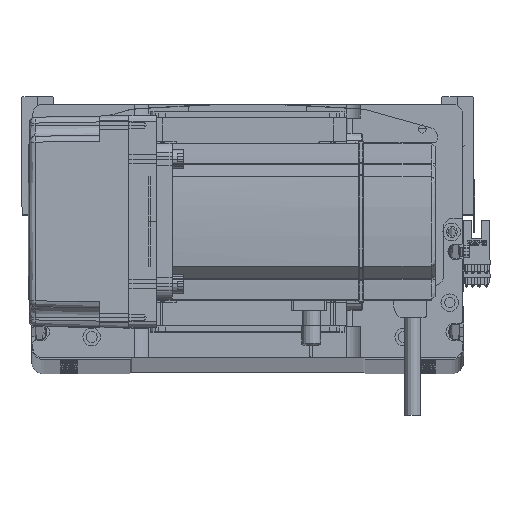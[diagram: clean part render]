
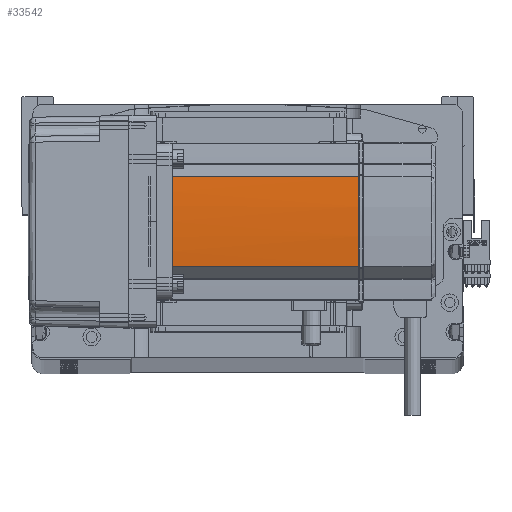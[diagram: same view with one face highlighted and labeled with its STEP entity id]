
A CAD part, top view. The second image highlights one B-rep face of the part: STEP entity #33542.
In plain terms, the highlighted cylindrical face has radius 270 mm (diameter 540 mm), a partial arc.
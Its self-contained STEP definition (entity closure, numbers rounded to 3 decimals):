
#1950 = VERTEX_POINT ( 'NONE', #11320 ) ;
#2886 = AXIS2_PLACEMENT_3D ( 'NONE', #28409, #13904, #57689 ) ;
#4317 = CIRCLE ( 'NONE', #2886, 270. ) ;
#4852 = DIRECTION ( 'NONE',  ( 0., 0., -1. ) ) ;
#4976 = CARTESIAN_POINT ( 'NONE',  ( 39.042, 22.724, 134. ) ) ;
#8057 = CARTESIAN_POINT ( 'NONE',  ( 40., -0.127, 134. ) ) ;
#10020 = ORIENTED_EDGE ( 'NONE', *, *, #25252, .F. ) ;
#11320 = CARTESIAN_POINT ( 'NONE',  ( 39.042, -22.724, 134. ) ) ;
#11766 = DIRECTION ( 'NONE',  ( 0., 0., -1. ) ) ;
#13904 = DIRECTION ( 'NONE',  ( 0., 0., -1. ) ) ;
#14029 = DIRECTION ( 'NONE',  ( 0., 0., 1. ) ) ;
#15095 = EDGE_CURVE ( 'NONE', #1950, #21059, #60653, .T. ) ;
#17395 = AXIS2_PLACEMENT_3D ( 'NONE', #29959, #29756, #39551 ) ;
#18592 = ORIENTED_EDGE ( 'NONE', *, *, #59586, .T. ) ;
#19333 = CARTESIAN_POINT ( 'NONE',  ( 39.042, 22.724, 58. ) ) ;
#20055 = AXIS2_PLACEMENT_3D ( 'NONE', #61611, #51027, #37504 ) ;
#20233 = VERTEX_POINT ( 'NONE', #58955 ) ;
#21059 = VERTEX_POINT ( 'NONE', #58756 ) ;
#25252 = EDGE_CURVE ( 'NONE', #20233, #61439, #51532, .T. ) ;
#25322 = CIRCLE ( 'NONE', #46467, 270. ) ;
#26481 = CARTESIAN_POINT ( 'NONE',  ( -230., 0., 39. ) ) ;
#27606 = CARTESIAN_POINT ( 'NONE',  ( 40., 0.042, 134. ) ) ;
#28409 = CARTESIAN_POINT ( 'NONE',  ( -230., 0., 134. ) ) ;
#29756 = DIRECTION ( 'NONE',  ( 0., 0., -1. ) ) ;
#29959 = CARTESIAN_POINT ( 'NONE',  ( -230., 0., 58. ) ) ;
#30974 = CARTESIAN_POINT ( 'NONE',  ( 40., 0.127, 134. ) ) ;
#31369 = DIRECTION ( 'NONE',  ( -1., 0., 0. ) ) ;
#33542 = ADVANCED_FACE ( 'NONE', ( #49177 ), #36336, .T. ) ;
#33933 = EDGE_CURVE ( 'NONE', #48379, #61439, #4317, .T. ) ;
#34132 = CARTESIAN_POINT ( 'NONE',  ( 39.042, 22.724, 39. ) ) ;
#35440 = EDGE_CURVE ( 'NONE', #59070, #21059, #25322, .T. ) ;
#35614 = VECTOR ( 'NONE', #4852, 1000. ) ;
#36336 = CYLINDRICAL_SURFACE ( 'NONE', #17395, 270. ) ;
#37504 = DIRECTION ( 'NONE',  ( -1., 0., 0. ) ) ;
#39551 = DIRECTION ( 'NONE',  ( -1., 0., 0. ) ) ;
#42633 = ORIENTED_EDGE ( 'NONE', *, *, #15095, .T. ) ;
#44732 = ORIENTED_EDGE ( 'NONE', *, *, #61987, .T. ) ;
#45079 = LINE ( 'NONE', #19333, #57943 ) ;
#46117 = ORIENTED_EDGE ( 'NONE', *, *, #33933, .T. ) ;
#46467 = AXIS2_PLACEMENT_3D ( 'NONE', #26481, #11766, #31369 ) ;
#48379 = VERTEX_POINT ( 'NONE', #4976 ) ;
#49177 = FACE_OUTER_BOUND ( 'NONE', #61109, .T. ) ;
#51027 = DIRECTION ( 'NONE',  ( 0., 0., -1. ) ) ;
#51532 = B_SPLINE_CURVE_WITH_KNOTS ( 'NONE', 3,
 ( #8057, #61143, #27606, #60928 ),
 .UNSPECIFIED., .F., .F.,
 ( 4, 4 ),
 ( 0., 1. ),
 .UNSPECIFIED. ) ;
#51864 = ORIENTED_EDGE ( 'NONE', *, *, #35440, .F. ) ;
#53212 = CARTESIAN_POINT ( 'NONE',  ( 39.042, -22.724, 58. ) ) ;
#54012 = CIRCLE ( 'NONE', #20055, 270. ) ;
#57689 = DIRECTION ( 'NONE',  ( -1., 0., 0. ) ) ;
#57943 = VECTOR ( 'NONE', #14029, 1000. ) ;
#58756 = CARTESIAN_POINT ( 'NONE',  ( 39.042, -22.724, 39. ) ) ;
#58955 = CARTESIAN_POINT ( 'NONE',  ( 40., -0.127, 134. ) ) ;
#59070 = VERTEX_POINT ( 'NONE', #34132 ) ;
#59586 = EDGE_CURVE ( 'NONE', #59070, #48379, #45079, .T. ) ;
#60653 = LINE ( 'NONE', #53212, #35614 ) ;
#60928 = CARTESIAN_POINT ( 'NONE',  ( 40., 0.127, 134. ) ) ;
#61109 = EDGE_LOOP ( 'NONE', ( #42633, #51864, #18592, #46117, #10020, #44732 ) ) ;
#61143 = CARTESIAN_POINT ( 'NONE',  ( 40., -0.042, 134. ) ) ;
#61439 = VERTEX_POINT ( 'NONE', #30974 ) ;
#61611 = CARTESIAN_POINT ( 'NONE',  ( -230., 0., 134. ) ) ;
#61987 = EDGE_CURVE ( 'NONE', #20233, #1950, #54012, .T. ) ;
